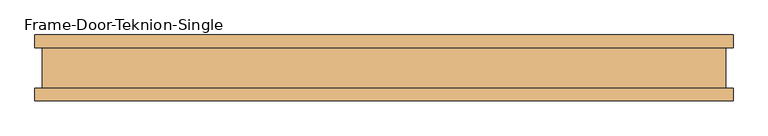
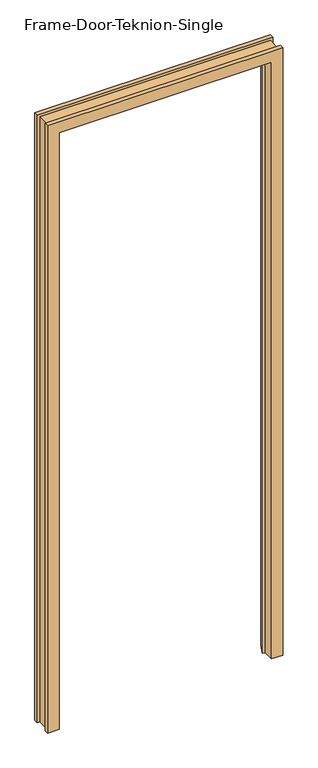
"""IFC4 building model written with IfcOpenShell, lengths in millimetres: door geometry, Frame-Door-Teknion-Single : FPFHS."""

import ifcopenshell
import ifcopenshell.guid

model = None  # the IFC model being written
_history = None  # IfcOwnerHistory: only IFC2X3 demands one
_inside = {}  # id of a spatial element -> (the spatial element, [elements in it])
_under = {}  # id of a project, library or spatial element -> (it, [spatial elements below it])
_declared = {}  # id of a project -> (the project, [libraries it declares])
_typed = {}  # id of a type object -> (the type object, [elements of that type])
_made_of = {}  # id of a material, layer set ... -> (it, [elements and type objects made of it])


def new_model(schema):
    """Start an empty IFC model of exactly this schema.

    Asked for "IFC4X3", IfcOpenShell would pick the latest addendum, in which some entities
    have other attributes; the version numbers below select the first issue.
    IFC2X3 requires an IfcOwnerHistory on every rooted entity: one is made here for all.
    """
    global model, _history
    if schema == "IFC4X3":
        model = ifcopenshell.file(schema_version=(4, 3, 0, 0))
    else:
        model = ifcopenshell.file(schema=schema)
    _inside.clear()
    _under.clear()
    _declared.clear()
    _typed.clear()
    _made_of.clear()
    _history = None
    if model.schema == "IFC2X3":
        org = make("IfcOrganization", Name="unknown")
        user = make(
            "IfcPersonAndOrganization",
            ThePerson=make("IfcPerson", FamilyName="unknown"),
            TheOrganization=org,
        )
        app = make(
            "IfcApplication",
            ApplicationDeveloper=org,
            Version="unknown",
            ApplicationFullName="unknown",
            ApplicationIdentifier="unknown",
        )
        _history = make(
            "IfcOwnerHistory",
            OwningUser=user,
            OwningApplication=app,
            ChangeAction="ADDED",
            CreationDate=0,
        )
    return model


def make(cls, **values):
    """One entity of the class cls with the attributes given. An attribute that is None is left unset."""
    return model.create_entity(
        cls, **{name: value for name, value in values.items() if value is not None}
    )


def rooted(cls, **values):
    """An entity with a GlobalId (a new one), such as an element, a storey or a relation."""
    return make(cls, GlobalId=ifcopenshell.guid.new(), OwnerHistory=_history, **values)


def si_unit(unit_type, name, prefix=None):
    """IfcSIUnit, for example si_unit("LENGTHUNIT", "METRE", prefix="MILLI")."""
    return make("IfcSIUnit", UnitType=unit_type, Prefix=prefix, Name=name)


def assignment(units):
    """IfcUnitAssignment: the units of a project."""
    return None if units is None else make("IfcUnitAssignment", Units=units)


def point(xyz):
    """IfcCartesianPoint."""
    return None if xyz is None else make("IfcCartesianPoint", Coordinates=xyz)


def direction(xyz):
    """IfcDirection."""
    return None if xyz is None else make("IfcDirection", DirectionRatios=xyz)


def frame(location, z_axis=None, x_axis=None):
    """IfcAxis2Placement3D, a coordinate frame: its origin and axes. An axis left out is left unset."""
    return make(
        "IfcAxis2Placement3D",
        Location=point(location),
        Axis=direction(z_axis),
        RefDirection=direction(x_axis),
    )


def origin():
    """The frame at (0, 0, 0) with its axes left unset."""
    return frame((0.0, 0.0, 0.0))


def place(relative_to, where):
    """IfcLocalPlacement: puts the frame where relative to a parent placement (None: the world)."""
    return make(
        "IfcLocalPlacement", PlacementRelTo=relative_to, RelativePlacement=where
    )


def context(
    kind, dimensions, precision=None, world=None, true_north=None, identifier=None
):
    """IfcGeometricRepresentationContext, for example the 3D "Model" context."""
    return make(
        "IfcGeometricRepresentationContext",
        ContextIdentifier=identifier,
        ContextType=kind,
        CoordinateSpaceDimension=dimensions,
        Precision=precision,
        WorldCoordinateSystem=world,
        TrueNorth=true_north,
    )


def project(units=None, contexts=None):
    """IfcProject with its units and contexts."""
    return rooted(
        "IfcProject",
        Name="project",
        RepresentationContexts=contexts,
        UnitsInContext=assignment(units),
    )


def spatial(cls, under=None, at=None, **own):
    """A site, building, storey or space (cls), placed at a placement, below another one or the project."""
    s = rooted(cls, ObjectPlacement=at, **own)
    if under is not None:
        _under.setdefault(under.id(), (under, []))[1].append(s)
    return s


def faces_of(points, faces, orient=None, outer=None):
    """IfcFace entities. A face is a list of loops; a loop is a list of indices into points, from 0.

    orient and outer hold one flag for each loop. By default every Orientation is true, the
    first loop of a face is its IfcFaceOuterBound and the others are IfcFaceBound.
    """
    made = []
    for i, loops in enumerate(faces):
        bounds = []
        for j, loop in enumerate(loops):
            is_outer = j == 0 if outer is None else outer[i][j]
            bounds.append(
                make(
                    "IfcFaceOuterBound" if is_outer else "IfcFaceBound",
                    Bound=make("IfcPolyLoop", Polygon=[points[k] for k in loop]),
                    Orientation=True if orient is None else orient[i][j],
                )
            )
        made.append(make("IfcFace", Bounds=bounds))
    return made


def faceted_brep(points, faces, orient=None, outer=None, voids=None):
    """IfcFacetedBrep: a solid bounded by flat faces; with voids (closed shells), ...WithVoids."""
    shared = [point(p) for p in points]
    hull = make("IfcClosedShell", CfsFaces=faces_of(shared, faces, orient, outer))
    if voids is None:
        return make("IfcFacetedBrep", Outer=hull)
    return make(
        "IfcFacetedBrepWithVoids",
        Outer=hull,
        Voids=[
            make(cls, CfsFaces=faces_of(shared, fs, o, b)) for cls, fs, o, b in voids
        ],
    )


def shape(context_of_items, identifier, shape_type, items):
    """IfcShapeRepresentation: the items that make up one representation, for example the "Body"."""
    return make(
        "IfcShapeRepresentation",
        ContextOfItems=context_of_items,
        RepresentationIdentifier=identifier,
        RepresentationType=shape_type,
        Items=items,
    )


def source(mapping_origin, context_of_items, identifier, shape_type, items):
    """IfcRepresentationMap: a shape defined once, which mapped items show again and again."""
    return make(
        "IfcRepresentationMap",
        MappingOrigin=mapping_origin,
        MappedRepresentation=shape(context_of_items, identifier, shape_type, items),
    )


def transform(
    local_origin,
    x_axis=None,
    y_axis=None,
    z_axis=None,
    scale=None,
    scale2=None,
    scale3=None,
    uniform=True,
):
    """IfcCartesianTransformationOperator3D, or its non-uniform kind. x_axis, y_axis, z_axis: its Axis1, 2, 3."""
    if uniform:
        return make(
            "IfcCartesianTransformationOperator3D",
            Axis1=direction(x_axis),
            Axis2=direction(y_axis),
            LocalOrigin=point(local_origin),
            Scale=scale,
            Axis3=direction(z_axis),
        )
    return make(
        "IfcCartesianTransformationOperator3DnonUniform",
        Axis1=direction(x_axis),
        Axis2=direction(y_axis),
        LocalOrigin=point(local_origin),
        Scale=scale,
        Axis3=direction(z_axis),
        Scale2=scale2,
        Scale3=scale3,
    )


def mapped(mapping_source, mapping_target):
    """IfcMappedItem: shows the shape of a source again, moved by a transform."""
    return make(
        "IfcMappedItem", MappingSource=mapping_source, MappingTarget=mapping_target
    )


def made_of(thing, what):
    """Note that an element or type object is made of a material, layer set ...; save() writes the relation."""
    if what is not None:
        _made_of.setdefault(what.id(), (what, []))[1].append(thing)
    return thing


def element(
    cls,
    number,
    at=None,
    inside=None,
    cuts=None,
    type_object=None,
    material=None,
    context=None,
    identifier="Body",
    shape_type=None,
    held_by="IfcProductDefinitionShape",
    body=None,
    shapes=None,
    **own,
):
    """One element of the class cls, such as IfcWall. Its Tag is "e" and its number.

    at: its placement. inside: the storey or other place that contains it. cuts: it is an
    opening in that element (IfcRelVoidsElement). A single representation is given by context,
    identifier, shape_type and body (its items); several are given by shapes. held_by: the class
    of the entity that holds the representations. save() writes the other relations.
    """
    e = rooted(cls, Tag="e%d" % number, ObjectPlacement=at, **own)
    if body is not None:
        shapes = [shape(context, identifier, shape_type, body)]
    if shapes is not None:
        e.Representation = make(held_by, Representations=shapes)
    if inside is not None:
        _inside.setdefault(inside.id(), (inside, []))[1].append(e)
    if cuts is not None:
        rooted(
            "IfcRelVoidsElement", RelatingBuildingElement=cuts, RelatedOpeningElement=e
        )
    if type_object is not None:
        _typed.setdefault(type_object.id(), (type_object, []))[1].append(e)
    return made_of(e, material)


def aggregate(whole, parts):
    """IfcRelAggregates: a whole, such as a stair, and the parts it consists of."""
    return rooted("IfcRelAggregates", RelatingObject=whole, RelatedObjects=parts)


def save(model, path):
    """Write the relations noted so far, then the file.

    IfcRelAggregates (storeys below a building ...), IfcRelContainedInSpatialStructure (elements
    in a storey), IfcRelDefinesByType, IfcRelAssociatesMaterial and IfcRelDeclares: one each for
    every whole, place, type object, material and project.
    """
    for whole, parts in _under.values():
        aggregate(whole, parts)
    for where, things in _inside.values():
        rooted(
            "IfcRelContainedInSpatialStructure",
            RelatedElements=things,
            RelatingStructure=where,
        )
    for kind, things in _typed.values():
        rooted("IfcRelDefinesByType", RelatedObjects=things, RelatingType=kind)
    for what, things in _made_of.values():
        rooted("IfcRelAssociatesMaterial", RelatedObjects=things, RelatingMaterial=what)
    for by, libraries in _declared.values():
        rooted("IfcRelDeclares", RelatingContext=by, RelatedDefinitions=libraries)
    model.write(path)


def frame_door_teknion_single_480e760c(model_context):
    return source(origin(), model_context, "Body", "Brep", [
        faceted_brep([(-478.9807565, -50.0254003, 0.0), (-530.4157565, -50.0254003, 0.0), (-530.4157565, -30.7594, 0.0), (-519.4101562, -30.7594, 0.0), (-519.4101562, 30.7594, 0.0), (-530.4157565, 30.7594, 0.0), (-530.4157565, 50.0254003, 0.0), (-488.5054518, 50.0254003, 0.0), (-466.0583342, -0.7133435, 0.0), (-478.9807565, -0.7133435, 0.0), (-478.9807565, -0.7133435, 2839.085), (-478.9807565, -50.0254003, 2839.085), (-466.0583342, -0.7133435, 2826.1625776), (466.0583342, -0.7133435, 2826.1625776), (466.0583342, -0.7133435, 0.0), (478.9807565, -0.7133435, 0.0), (478.9807565, -0.7133435, 2839.085), (-488.5054518, 50.0254003, 2848.6096953), (-530.4157565, 50.0254003, 2890.52), (530.4157565, 50.0254003, 2890.52), (530.4157565, 50.0254003, 0.0), (488.5054518, 50.0254003, 0.0), (488.5054518, 50.0254003, 2848.6096953), (-530.4157565, 30.7594, 2890.52), (-519.4101562, 30.7594, 2879.5143997), (519.4101563, 30.7594, 2879.5143997), (519.4101563, 30.7594, 0.0), (530.4157565, 30.7594, 0.0), (530.4157565, 30.7594, 2890.52), (-519.4101562, -30.7594, 2879.5143997), (-530.4157565, -30.7594, 2890.52), (530.4157565, -30.7594, 2890.52), (530.4157565, -30.7594, 0.0), (519.4101563, -30.7594, 0.0), (519.4101563, -30.7594, 2879.5143997), (-530.4157565, -50.0254003, 2890.52), (478.9807565, -50.0254003, 2839.085), (478.9807565, -50.0254003, 0.0), (530.4157565, -50.0254003, 0.0), (530.4157565, -50.0254003, 2890.52)], [[[0, 1, 2, 3, 4, 5, 6, 7, 8, 9]], [[9, 10, 11, 0]], [[8, 12, 13, 14, 15, 16, 10, 9]], [[7, 17, 12, 8]], [[6, 18, 19, 20, 21, 22, 17, 7]], [[5, 23, 18, 6]], [[4, 24, 25, 26, 27, 28, 23, 5]], [[3, 29, 24, 4]], [[2, 30, 31, 32, 33, 34, 29, 3]], [[1, 35, 30, 2]], [[0, 11, 36, 37, 38, 39, 35, 1]], [[37, 15, 14, 21, 20, 27, 26, 33, 32, 38]], [[16, 15, 37, 36]], [[22, 21, 14, 13]], [[28, 27, 20, 19]], [[34, 33, 26, 25]], [[39, 38, 32, 31]], [[10, 16, 36, 11]], [[17, 22, 13, 12]], [[23, 28, 19, 18]], [[29, 34, 25, 24]], [[35, 39, 31, 30]]]),
    ])


if __name__ == "__main__":
    model = new_model("IFC4")
    model_context = context("Model", 3, world=origin())
    ifc_project = project(units=[si_unit("LENGTHUNIT", "METRE", prefix="MILLI")], contexts=[model_context])
    site = spatial("IfcSite", under=ifc_project)
    building = spatial("IfcBuilding", under=site)
    placement = place(None, origin())
    frame_door_teknion_single_shape = frame_door_teknion_single_480e760c(model_context)
    element("IfcDoor", 1, ObjectType="Frame-Door-Teknion-Single : FPFHS", at=placement, inside=building, context=model_context, shape_type="MappedRepresentation", body=[
        mapped(frame_door_teknion_single_shape, transform((0.0, 0.0, 0.0), x_axis=(1.0, 0.0, 0.0), y_axis=(0.0, 1.0, 0.0), z_axis=(0.0, 0.0, 1.0))),
    ])
    save(model, "model.ifc")
